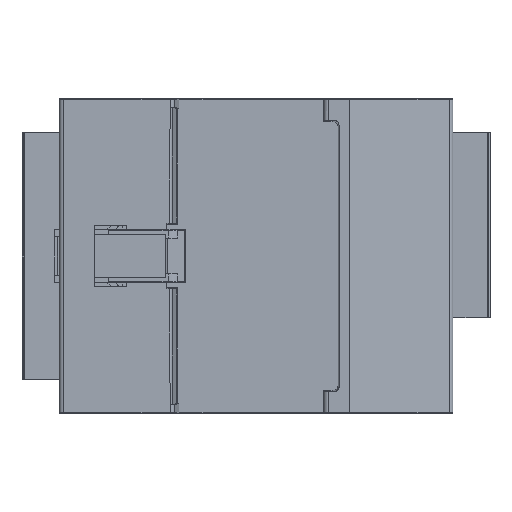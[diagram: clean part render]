
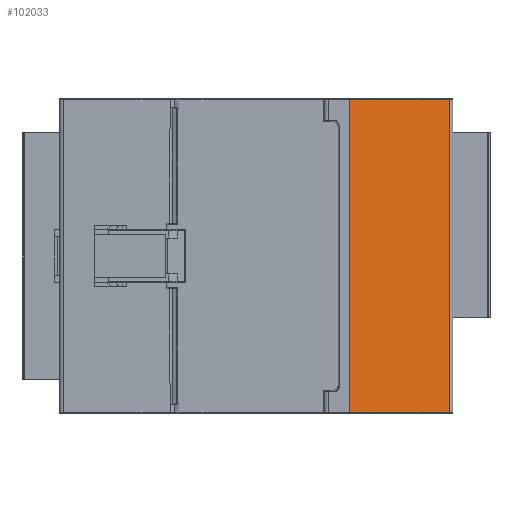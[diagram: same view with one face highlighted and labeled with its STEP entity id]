
A CAD part, front view. The second image highlights one B-rep face of the part: STEP entity #102033.
In plain terms, the highlighted planar face has unit normal (0.174, -0.985, 0).
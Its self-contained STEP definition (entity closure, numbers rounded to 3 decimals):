
#10693=FACE_OUTER_BOUND('',#16218,.T.);
#16218=EDGE_LOOP('',(#86787,#86788,#86789,#86790));
#26094=LINE('',#180685,#36259);
#26095=LINE('',#180687,#36260);
#26096=LINE('',#180689,#36261);
#26097=LINE('',#180690,#36262);
#36259=VECTOR('',#136233,10.);
#36260=VECTOR('',#136234,10.);
#36261=VECTOR('',#136235,10.);
#36262=VECTOR('',#136236,10.);
#45736=VERTEX_POINT('',#180683);
#45737=VERTEX_POINT('',#180684);
#45738=VERTEX_POINT('',#180686);
#45739=VERTEX_POINT('',#180688);
#59547=EDGE_CURVE('',#45736,#45737,#26094,.T.);
#59548=EDGE_CURVE('',#45738,#45736,#26095,.T.);
#59549=EDGE_CURVE('',#45739,#45738,#26096,.T.);
#59550=EDGE_CURVE('',#45739,#45737,#26097,.T.);
#86787=ORIENTED_EDGE('',*,*,#59547,.F.);
#86788=ORIENTED_EDGE('',*,*,#59548,.F.);
#86789=ORIENTED_EDGE('',*,*,#59549,.F.);
#86790=ORIENTED_EDGE('',*,*,#59550,.T.);
#91892=PLANE('',#110324);
#102033=ADVANCED_FACE('',(#10693),#91892,.T.);
#110324=AXIS2_PLACEMENT_3D('',#180682,#136231,#136232);
#136231=DIRECTION('center_axis',(0.174,-0.985,0.));
#136232=DIRECTION('ref_axis',(0.985,0.174,0.));
#136233=DIRECTION('',(-0.985,-0.174,0.));
#136234=DIRECTION('',(0.,0.,-1.));
#136235=DIRECTION('',(0.985,0.174,0.));
#136236=DIRECTION('',(0.,0.,-1.));
#180682=CARTESIAN_POINT('Origin',(21.969,-7.678,0.));
#180683=CARTESIAN_POINT('',(44.074,-3.78,-35.7));
#180684=CARTESIAN_POINT('',(21.275,-7.8,-35.7));
#180685=CARTESIAN_POINT('',(23.049,-7.487,-35.7));
#180686=CARTESIAN_POINT('',(44.074,-3.78,35.7));
#180687=CARTESIAN_POINT('',(44.074,-3.78,16.4));
#180688=CARTESIAN_POINT('',(21.275,-7.8,35.7));
#180689=CARTESIAN_POINT('',(23.049,-7.487,35.7));
#180690=CARTESIAN_POINT('',(21.275,-7.8,-8.9));
